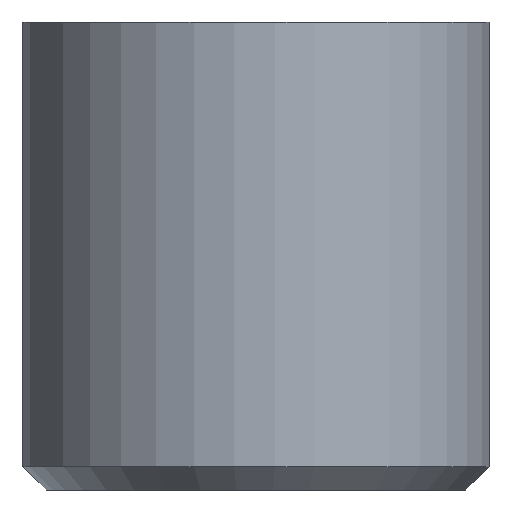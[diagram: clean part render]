
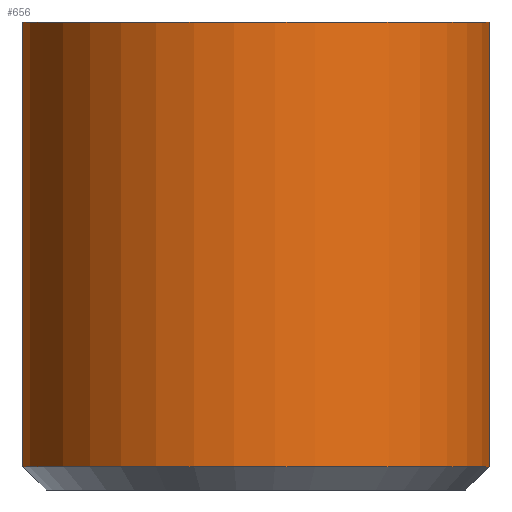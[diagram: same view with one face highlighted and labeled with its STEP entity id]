
A CAD part, front view. The second image highlights one B-rep face of the part: STEP entity #656.
In plain terms, the highlighted cylindrical face has radius 12.7 mm (diameter 25.4 mm), a partial arc.
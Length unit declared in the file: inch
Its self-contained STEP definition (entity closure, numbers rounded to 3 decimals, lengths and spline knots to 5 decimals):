
#15 = CARTESIAN_POINT ( 'NONE',  ( 0., 0., 0. ) ) ;
#26 = VECTOR ( 'NONE', #284, 39.37008 ) ;
#28 = DIRECTION ( 'NONE',  ( 0.996, -0.093, 0. ) ) ;
#31 = CARTESIAN_POINT ( 'NONE',  ( -0.49782, 0.04669, -1. ) ) ;
#48 = CYLINDRICAL_SURFACE ( 'NONE', #221, 0.5 ) ;
#116 = ORIENTED_EDGE ( 'NONE', *, *, #368, .F. ) ;
#146 = CARTESIAN_POINT ( 'NONE',  ( 0., 0., -0.95 ) ) ;
#149 = VERTEX_POINT ( 'NONE', #519 ) ;
#190 = EDGE_CURVE ( 'NONE', #253, #534, #219, .T. ) ;
#203 = VERTEX_POINT ( 'NONE', #537 ) ;
#204 = EDGE_CURVE ( 'NONE', #534, #203, #385, .T. ) ;
#213 = CARTESIAN_POINT ( 'NONE',  ( 0., 0., -1. ) ) ;
#219 = LINE ( 'NONE', #220, #26 ) ;
#220 = CARTESIAN_POINT ( 'NONE',  ( 0.49782, -0.04669, -1. ) ) ;
#221 = AXIS2_PLACEMENT_3D ( 'NONE', #213, #403, #399 ) ;
#226 = VECTOR ( 'NONE', #544, 39.37008 ) ;
#244 = DIRECTION ( 'NONE',  ( 0., 0., -1. ) ) ;
#253 = VERTEX_POINT ( 'NONE', #349 ) ;
#284 = DIRECTION ( 'NONE',  ( 0., 0., 1. ) ) ;
#300 = AXIS2_PLACEMENT_3D ( 'NONE', #15, #244, #641 ) ;
#315 = EDGE_CURVE ( 'NONE', #149, #253, #342, .T. ) ;
#342 = CIRCLE ( 'NONE', #532, 0.5 ) ;
#349 = CARTESIAN_POINT ( 'NONE',  ( 0.49782, -0.04669, -0.95 ) ) ;
#355 = LINE ( 'NONE', #31, #226 ) ;
#368 = EDGE_CURVE ( 'NONE', #149, #203, #355, .T. ) ;
#385 = CIRCLE ( 'NONE', #300, 0.5 ) ;
#399 = DIRECTION ( 'NONE',  ( -0.996, 0.093, 0. ) ) ;
#403 = DIRECTION ( 'NONE',  ( 0., 0., 1. ) ) ;
#467 = ORIENTED_EDGE ( 'NONE', *, *, #190, .T. ) ;
#489 = ORIENTED_EDGE ( 'NONE', *, *, #204, .T. ) ;
#492 = DIRECTION ( 'NONE',  ( 0., 0., 1. ) ) ;
#519 = CARTESIAN_POINT ( 'NONE',  ( -0.49782, 0.04669, -0.95 ) ) ;
#523 = ORIENTED_EDGE ( 'NONE', *, *, #315, .T. ) ;
#532 = AXIS2_PLACEMENT_3D ( 'NONE', #146, #492, #28 ) ;
#534 = VERTEX_POINT ( 'NONE', #729 ) ;
#537 = CARTESIAN_POINT ( 'NONE',  ( -0.49782, 0.04669, 0. ) ) ;
#544 = DIRECTION ( 'NONE',  ( 0., 0., 1. ) ) ;
#546 = EDGE_LOOP ( 'NONE', ( #523, #467, #489, #116 ) ) ;
#641 = DIRECTION ( 'NONE',  ( 0.996, -0.093, 0. ) ) ;
#656 = ADVANCED_FACE ( 'NONE', ( #701 ), #48, .T. ) ;
#701 = FACE_OUTER_BOUND ( 'NONE', #546, .T. ) ;
#729 = CARTESIAN_POINT ( 'NONE',  ( 0.49782, -0.04669, 0. ) ) ;
